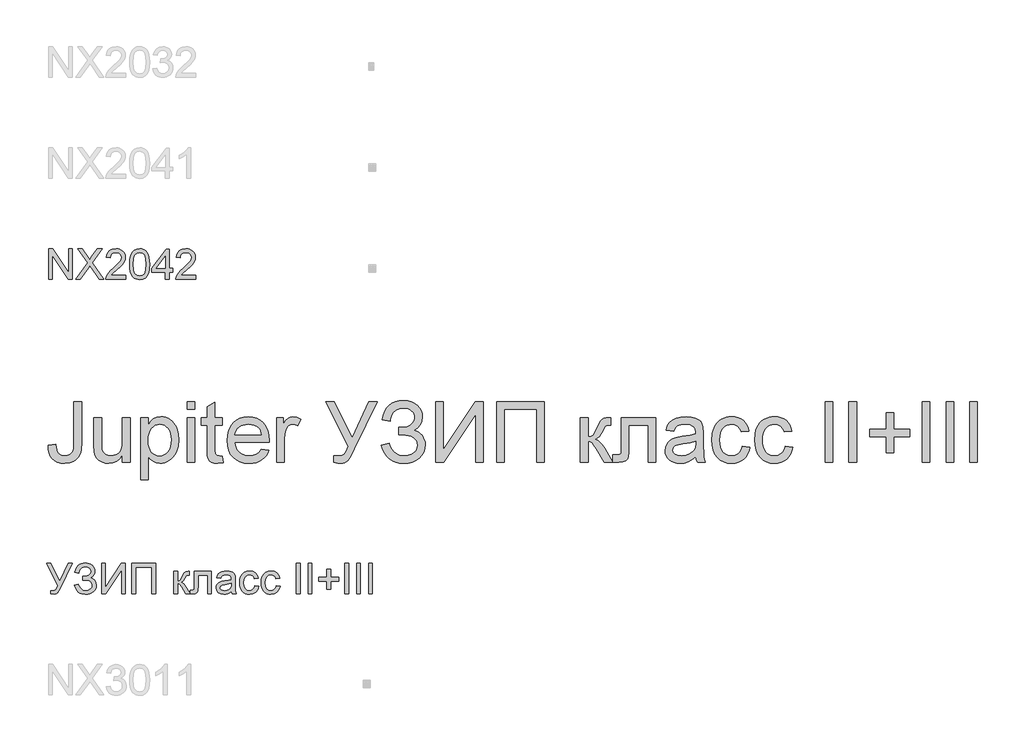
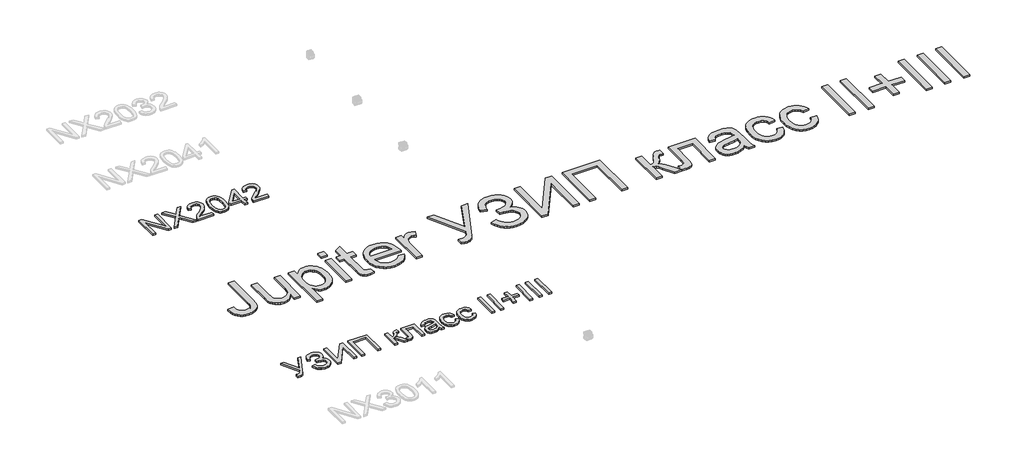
# One storey, part 7 of 124: 3 proxies.
"""IFC4 building model written with IfcOpenShell, lengths in millimetres."""

from ifc_helpers import new_model, si_unit, origin, origin_with_axes, place, context, project, spatial, polyline, outline, extrude, element, save

model = new_model("IFC4")

# Units and contexts
model_context = context("Model", 3, world=origin())
ifc_project = project(units=[si_unit("LENGTHUNIT", "METRE", prefix="MILLI")], contexts=[model_context])

# Site, building, storey
site = spatial("IfcSite", under=ifc_project)
building = spatial("IfcBuilding", under=site)
storey = spatial("IfcBuildingStorey", under=building, Name="Этаж 01", Elevation=0.0)

# Proxies
placement = place(None, origin())
element("IfcBuildingElementProxy", 1, Name="600 мм Arial", ObjectType="600 мм Arial", at=placement, inside=storey, context=model_context, shape_type="SweptSolid", body=[
    extrude(outline(polyline([(49495.1131782, -130759.9685178), (49570.4554108, -130750.2564332), (49573.1133582, -130780.2112246), (49578.2912973, -130805.0340622), (49585.989228, -130824.724946), (49596.2071504, -130839.283876), (49608.7887147, -130849.7777099), (49623.5775709, -130857.2733055), (49640.573719, -130861.7706629), (49659.7771592, -130863.2697821), (49687.6074321, -130859.8668736), (49711.3542149, -130849.6581482), (49729.6747383, -130833.5817051), (49741.2262329, -130812.5756431), (49747.3514681, -130782.1701962), (49749.3932132, -130737.8955981), (49749.3932132, -130326.4563747), (49824.7354458, -130326.4563747), (49824.7354458, -130736.5712229), (49820.1921032, -130803.6545048), (49814.5129249, -130830.7812034), (49806.5620753, -130853.6312738), (49796.1418178, -130873.115224), (49783.0544158, -130890.1435618), (49767.2998693, -130904.7162874), (49748.8781784, -130916.8334006), (49705.9647437, -130933.1673612), (49656.245492, -130938.6120147), (49619.1170017, -130935.8023159), (49586.6054304, -130927.3732197), (49558.7107781, -130913.324726), (49535.4330448, -130893.6568349), (49517.1860979, -130868.4431226), (49504.3838044, -130837.7571657), (49497.0261645, -130801.5989641), (49495.1131782, -130759.9685178)])), origin_with_axes(), (0.0, 0.0, 1.0), 20.0),
    extrude(outline(polyline([(50229.6999461, -130929.1942356), (50229.6999461, -130853.116239), (50202.4398903, -130890.5206409), (50170.6916741, -130917.2380708), (50134.4552976, -130933.2685287), (50093.7307607, -130938.6120147), (50057.0345317, -130934.8596183), (50022.8766884, -130923.6024293), (49994.218681, -130906.6798575), (49974.0219595, -130885.931313), (49960.4287198, -130860.7313963), (49951.5811578, -130830.4547081), (49947.1665738, -130760.4099762), (49947.1665738, -130486.558619), (50022.5088064, -130486.558619), (50022.5088064, -130724.9461519), (50023.6492406, -130772.6236585), (50027.0705432, -130801.7599125), (50038.0518207, -130827.3828934), (50056.8689848, -130846.8622451), (50082.2712366, -130859.1678978), (50113.0077773, -130863.2697821), (50145.5101515, -130859.0759273), (50175.9155984, -130846.4943631), (50200.9867564, -130826.6839177), (50217.4862639, -130800.8034193), (50226.6465256, -130765.3579891), (50229.6999461, -130716.852748), (50229.6999461, -130486.558619), (50305.0421787, -130486.558619), (50305.0421787, -130929.1942356), (50229.6999461, -130929.1942356)])), origin_with_axes(), (0.0, 0.0, 1.0), 20.0),
    extrude(outline(polyline([(50408.6377486, -131098.714259), (50408.6377486, -130486.558619), (50483.9799812, -130486.558619), (50483.9799812, -130560.4293236), (50508.5544985, -130523.990612), (50536.0720717, -130497.9629609), (50568.1513817, -130482.3463702), (50606.4111092, -130477.1408399), (50632.6870807, -130478.9618558), (50657.3627655, -130484.4249034), (50680.4381637, -130493.5299828), (50701.9132751, -130506.277094), (50721.3190504, -130522.335143), (50738.1864399, -130541.3730363), (50752.5154436, -130563.3907737), (50764.3060615, -130588.3883553), (50780.0881991, -130643.9017483), (50785.3489116, -130704.491913), (50779.4076174, -130768.9264444), (50771.9809996, -130798.5915288), (50761.5837348, -130826.555159), (50748.358377, -130852.0861694), (50732.4474807, -130874.4533947), (50713.8510459, -130893.6568349), (50692.5690725, -130909.6964899), (50669.6454256, -130922.347032), (50646.1239706, -130931.3831335), (50622.0047073, -130936.8047944), (50597.2876357, -130938.6120147), (50562.6515459, -130933.7743664), (50531.7310642, -130919.2614217), (50505.2619546, -130897.3540489), (50483.9799812, -130870.3331164), (50483.9799812, -131098.714259), (50408.6377486, -131098.714259)]), holes=[polyline([(50483.9799812, -130711.4080945), (50486.0171277, -130747.7180474), (50492.1285674, -130778.9512288), (50502.3143001, -130805.1076386), (50516.574326, -130826.187277), (50533.7406196, -130842.4108729), (50552.6451556, -130853.9991558), (50573.287934, -130860.9521255), (50595.6689549, -130863.2697821), (50618.3718726, -130860.8693521), (50639.3917301, -130853.668062), (50658.7285274, -130841.6659119), (50676.3822647, -130824.8629018), (50691.092946, -130803.0199083), (50701.6005754, -130775.8978082), (50707.9051531, -130743.4966015), (50710.006679, -130705.8162881), (50707.9557369, -130669.8190349), (50701.8029105, -130638.6410358), (50691.5481999, -130612.2822909), (50677.1916051, -130590.7428), (50659.9839247, -130574.0041693), (50641.1759577, -130562.0480044), (50620.767704, -130554.8743055), (50598.7591637, -130552.4830725), (50576.8196012, -130555.0260568), (50556.1768227, -130562.6550097), (50536.8308283, -130575.3699312), (50518.7816179, -130593.1708212), (50503.5559019, -130615.8185565), (50492.6803904, -130643.0740139), (50486.1550835, -130674.9371932), (50483.9799812, -130711.4080945)])]), origin_with_axes(), (0.0, 0.0, 1.0), 20.0),
    extrude(outline(polyline([(50870.1089233, -130401.7986073), (50870.1089233, -130326.4563747), (50945.4511559, -130326.4563747), (50945.4511559, -130401.7986073), (50870.1089233, -130401.7986073)])), origin_with_axes(), (0.0, 0.0, 1.0), 20.0),
    extrude(outline(polyline([(50870.1089233, -130929.1942356), (50870.1089233, -130486.558619), (50945.4511559, -130486.558619), (50945.4511559, -130929.1942356), (50870.1089233, -130929.1942356)])), origin_with_axes(), (0.0, 0.0, 1.0), 20.0),
    extrude(outline(polyline([(51218.5667492, -130866.3599908), (51227.9845282, -130931.4015276), (51171.6250066, -130938.6120147), (51135.4622064, -130935.4850177), (51108.4964562, -130926.1040268), (51089.4401689, -130911.6462644), (51077.0057574, -130893.2889529), (51070.1631523, -130861.7614659), (51067.8822839, -130807.7931772), (51067.8822839, -130561.9008516), (51011.3756095, -130561.9008516), (51011.3756095, -130486.558619), (51067.8822839, -130486.558619), (51067.8822839, -130378.9899236), (51143.2245165, -130334.6969314), (51143.2245165, -130486.558619), (51218.5667492, -130486.558619), (51218.5667492, -130561.9008516), (51143.2245165, -130561.9008516), (51143.2245165, -130805.5858852), (51147.1976421, -130844.4342239), (51160.0735119, -130858.1930105), (51170.9444249, -130862.0005892), (51185.7516752, -130863.2697821), (51218.5667492, -130866.3599908)])), origin_with_axes(), (0.0, 0.0, 1.0), 20.0),
    extrude(outline(polyline([(51603.8127745, -130797.3453285), (51677.6834791, -130806.7631076), (51666.3573122, -130836.3500171), (51651.0672168, -130862.4236535), (51631.8131929, -130884.9840168), (51608.5952404, -130904.0311071), (51581.6524828, -130919.1602542), (51551.2240433, -130929.9667878), (51517.3099219, -130936.450708), (51479.9101185, -130938.6120147), (51433.161514, -130934.882611), (51391.5080751, -130923.6943998), (51354.9498018, -130905.0473811), (51323.4866942, -130878.9415551), (51298.18561, -130846.1034885), (51280.113407, -130807.2597483), (51269.2700851, -130762.4103346), (51265.6556445, -130711.5552473), (51269.3068733, -130658.9757131), (51280.2605598, -130612.6317788), (51298.5167038, -130572.5234442), (51324.0753054, -130538.6507095), (51355.4556396, -130511.7401416), (51391.1769813, -130492.5183073), (51431.2393306, -130480.9852068), (51475.6426874, -130477.1408399), (51518.615903, -130480.9760097), (51557.4780372, -130492.4815191), (51592.2290902, -130511.6573681), (51622.8690619, -130538.5035567), (51647.880439, -130572.302715), (51665.7457084, -130612.3374732), (51676.46487, -130658.6078311), (51680.0379239, -130711.1137889), (51679.5964655, -130731.420875), (51340.9978772, -130731.420875), (51345.3618773, -130761.4860311), (51354.0392939, -130787.8171849), (51367.0301268, -130810.4143364), (51384.3343762, -130829.2774857), (51404.9955487, -130844.1491154), (51428.0571513, -130854.771708), (51453.5191839, -130861.1452635), (51481.3816465, -130863.2697821), (51521.480784, -130859.3334447), (51555.2523511, -130847.5244327), (51582.696348, -130827.1069819), (51603.8127745, -130797.3453285)]), holes=[polyline([(51340.9978772, -130656.0786424), (51604.6956913, -130656.0786424), (51594.50536, -130616.2738105), (51585.7405715, -130600.6204316), (51574.5293677, -130587.7997441), (51553.9831583, -130572.3487003), (51530.6042575, -130561.3122404), (51504.3926653, -130554.6903645), (51475.3483818, -130552.4830725), (51448.8562796, -130554.2443076), (51424.5622724, -130559.5280128), (51402.46636, -130568.334188), (51382.5685426, -130580.6628334), (51365.8712986, -130595.9437318), (51353.3771063, -130613.606666), (51345.0859658, -130633.6516363), (51340.9978772, -130656.0786424)])]), origin_with_axes(), (0.0, 0.0, 1.0), 20.0),
    extrude(outline(polyline([(51755.3801565, -130929.1942356), (51755.3801565, -130486.558619), (51821.3046101, -130486.558619), (51821.3046101, -130552.0416142), (51845.6583981, -130514.0761922), (51868.0991998, -130491.7089669), (51890.6135779, -130480.7828717), (51915.1880952, -130477.1408399), (51952.7120587, -130482.9533755), (51990.8246334, -130500.390982), (51965.661505, -130567.9341163), (51939.1740013, -130556.3458335), (51912.6864977, -130552.4830725), (51890.1905137, -130556.1986807), (51870.0857626, -130567.3455052), (51853.8437725, -130585.0774173), (51842.9360714, -130608.5482886), (51833.7758097, -130650.6339889), (51830.7223891, -130696.5456619), (51830.7223891, -130929.1942356), (51755.3801565, -130929.1942356)])), origin_with_axes(), (0.0, 0.0, 1.0), 20.0),
    extrude(outline(polyline([(52240.395779, -130326.4563747), (52323.8314155, -130326.4563747), (52504.0935931, -130683.4490628), (52666.2559766, -130326.4563747), (52748.9558491, -130326.4563747), (52520.1332481, -130796.0209534), (52485.5891287, -130868.9351648), (52457.8876145, -130911.388747), (52444.4323305, -130923.2989266), (52428.3466903, -130931.8061978), (52409.6306938, -130936.9105605), (52388.284341, -130938.6120147), (52357.492618, -130936.2575699), (52320.4469011, -130929.1942356), (52320.4469011, -130863.2697821), (52379.7494787, -130863.2697821), (52403.4778674, -130859.0759273), (52423.7481654, -130846.4943631), (52443.2091229, -130819.0135781), (52464.5094904, -130770.1220609), (52240.395779, -130326.4563747)])), origin_with_axes(), (0.0, 0.0, 1.0), 20.0),
    extrude(outline(polyline([(52791.3358549, -130759.6742122), (52866.6780876, -130740.8386541), (52872.8263154, -130761.2239151), (52882.5889838, -130781.6183732), (52912.9576425, -130822.4348806), (52933.2877213, -130840.30015), (52956.6804177, -130853.0610567), (52983.1357316, -130860.7176007), (53012.6536632, -130863.2697821), (53042.6866296, -130861.3521972), (53069.3626728, -130855.5994425), (53092.6817928, -130846.011518), (53112.6439895, -130832.5884237), (53128.6422578, -130816.4521997), (53140.0695923, -130798.724886), (53146.925993, -130779.4064827), (53149.2114598, -130758.4969898), (53146.7144608, -130736.2263336), (53139.2234637, -130716.3561073), (53126.7384685, -130698.8863111), (53109.2594752, -130683.8169448), (53087.4762625, -130671.6814375), (53062.0786093, -130663.013218), (53033.0665154, -130657.8122863), (53000.439981, -130656.0786424), (52960.8558783, -130656.0786424), (52960.8558783, -130580.7364098), (53010.0600952, -130579.2096995), (53046.1309248, -130574.6295687), (53073.9244095, -130563.7770498), (53098.2965917, -130543.4331755), (53115.2927399, -130516.6329721), (53120.9581226, -130486.4114662), (53119.0727274, -130468.0495561), (53113.4165417, -130450.9292478), (53103.9895656, -130435.0505412), (53090.791799, -130420.4134363), (53074.375065, -130408.1491703), (53055.2911865, -130399.3889803), (53033.5401635, -130394.1328662), (53009.1219961, -130392.3808282), (52967.3857837, -130397.7702995), (52932.2346591, -130413.9387132), (52905.305697, -130439.0098711), (52888.2359725, -130471.1075752), (52879.1308931, -130502.1936038), (52876.0958666, -130524.2297353), (52800.753634, -130505.3941772), (52810.0817419, -130461.2483377), (52824.160126, -130422.9886102), (52842.9887863, -130390.6149947), (52866.567723, -130364.127491), (52894.8969358, -130343.5260993), (52927.976425, -130328.8108195), (52965.8061904, -130319.9816516), (53008.3862321, -130317.0385956), (53049.4096731, -130320.0966147), (53085.9541508, -130329.270672), (53118.0196652, -130344.5607674), (53145.6062163, -130365.966901), (53167.7849021, -130391.4657218), (53183.6268205, -130419.0338788), (53193.1319715, -130448.671372), (53196.3003552, -130480.3782015), (53191.3707365, -130520.0266835), (53176.5818803, -130554.9478819), (53151.9337866, -130585.1417967), (53117.4264555, -130610.6084278), (53139.3062371, -130618.5960656), (53159.3282147, -130629.9038384), (53177.4923882, -130644.5317463), (53193.7987577, -130662.4797891), (53207.2540416, -130683.0489912), (53216.8649588, -130705.5403766), (53222.631509, -130729.9539455), (53224.5536925, -130756.2896979), (53220.8656755, -130793.5515455), (53209.8016245, -130827.6404108), (53191.3615394, -130858.556294), (53165.5454204, -130886.299195), (53133.6408544, -130909.1860536), (53096.9354283, -130925.5338098), (53055.4291422, -130935.3424635), (53009.1219961, -130938.6120147), (52969.087238, -130935.8161115), (52932.7129057, -130927.428402), (52899.9989993, -130913.4488862), (52870.9455187, -130893.8775641), (52845.552464, -130868.7144356), (52823.8198351, -130837.9595008), (52805.7476321, -130801.6127597), (52791.3358549, -130759.6742122)])), origin_with_axes(), (0.0, 0.0, 1.0), 20.0),
    extrude(outline(polyline([(53328.1492623, -130326.4563747), (53403.4914949, -130326.4563747), (53403.4914949, -130803.8200516), (53718.987094, -130326.4563747), (53799.0382161, -130326.4563747), (53799.0382161, -130929.1942356), (53723.6959835, -130929.1942356), (53723.6959835, -130453.1549338), (53408.9361484, -130929.1942356), (53328.1492623, -130929.1942356), (53328.1492623, -130326.4563747)])), origin_with_axes(), (0.0, 0.0, 1.0), 20.0),
    extrude(outline(polyline([(53930.8871232, -130326.4563747), (54401.776077, -130326.4563747), (54401.776077, -130929.1942356), (54326.4338444, -130929.1942356), (54326.4338444, -130401.7986073), (54006.2293558, -130401.7986073), (54006.2293558, -130929.1942356), (53930.8871232, -130929.1942356), (53930.8871232, -130326.4563747)])), origin_with_axes(), (0.0, 0.0, 1.0), 20.0),
    extrude(outline(polyline([(54759.6516819, -130486.558619), (54834.9939145, -130486.558619), (54834.9939145, -130674.9142005), (54865.6384847, -130671.5296862), (54885.4673243, -130661.3761431), (54903.0152955, -130634.8886395), (54926.8172605, -130582.5022434), (54946.0023066, -130539.662385), (54961.1774389, -130514.4440742), (54975.3408957, -130500.7036817), (54991.4909153, -130492.2975781), (55013.8397465, -130487.9933588), (55046.5996382, -130486.558619), (55061.0206124, -130486.558619), (55061.0206124, -130562.34231), (55040.7135262, -130561.9008516), (55017.1690786, -130563.8874144), (55003.9253267, -130569.8471027), (54993.1831725, -130586.4385807), (54978.0264343, -130619.4375957), (54962.115538, -130652.4917929), (54947.6393815, -130673.0747906), (54930.1098044, -130686.8151831), (54905.0386464, -130699.341565), (54928.9141879, -130709.9457635), (54952.5690002, -130728.66176), (54976.0030833, -130755.4895545), (54999.2164372, -130790.429147), (55079.8561705, -130929.1942356), (54994.2132421, -130929.1942356), (54915.1921895, -130793.372203), (54893.8550338, -130757.227797), (54875.460934, -130735.9090353), (54856.8828933, -130725.4795808), (54834.9939145, -130722.0030959), (54834.9939145, -130929.1942356), (54759.6516819, -130929.1942356), (54759.6516819, -130486.558619)])), origin_with_axes(), (0.0, 0.0, 1.0), 20.0),
    extrude(outline(polyline([(55164.6161822, -130486.558619), (55503.656229, -130486.558619), (55503.656229, -130928.7527772), (55428.3139964, -130928.7527772), (55428.3139964, -130561.9008516), (55239.9584148, -130561.9008516), (55239.9584148, -130773.0651169), (55238.689222, -130834.3542572), (55234.8816433, -130870.4802692), (55225.3718937, -130892.5347948), (55206.9961881, -130911.6094762), (55179.1107328, -130924.7980458), (55141.0717345, -130929.1942356), (55079.8561705, -130925.3682629), (55079.8561705, -130853.852003), (55113.5541613, -130853.852003), (55133.9900061, -130852.6931747), (55147.620034, -130849.2166899), (55156.1365022, -130843.2202133), (55161.2316679, -130834.50141), (55164.6161822, -130768.7976857), (55164.6161822, -130486.558619)])), origin_with_axes(), (0.0, 0.0, 1.0), 20.0),
    extrude(outline(polyline([(55899.2029502, -130872.6875611), (55863.205697, -130903.5528605), (55826.141586, -130923.7495821), (55787.1644886, -130934.8964065), (55745.4282762, -130938.6120147), (55711.8820368, -130936.3771316), (55682.4652727, -130929.6724822), (55657.1779841, -130918.4980666), (55636.0201708, -130902.8538848), (55619.3137297, -130883.7332181), (55607.3805575, -130862.1293479), (55600.2206542, -130838.0422743), (55597.8340197, -130811.4719971), (55601.4392633, -130780.2388158), (55612.254994, -130751.8751139), (55628.9384424, -130727.5949022), (55650.1468395, -130708.6121913), (55675.0708446, -130694.2647935), (55702.9011176, -130683.8905212), (55768.0898071, -130672.5597558), (55845.1242969, -130660.6403791), (55898.7614918, -130646.6608633), (55899.2029502, -130629.8854443), (55894.0158141, -130596.26103), (55887.5318939, -130583.8082244), (55878.4544057, -130574.2616867), (55862.7642386, -130564.733543), (55843.6527689, -130557.9277261), (55795.165922, -130552.4830725), (55750.2843185, -130556.1067102), (55718.9407726, -130566.9776232), (55697.5668286, -130587.0823742), (55682.5940314, -130618.4075261), (55607.2517988, -130608.989747), (55620.3300037, -130567.7869635), (55639.8461436, -130535.413348), (55667.6212342, -130510.6548897), (55705.4762915, -130492.2975781), (55751.7742406, -130480.9300245), (55804.8780066, -130477.1408399), (55855.8112689, -130480.4885661), (55896.1863178, -130490.5317446), (55926.6285529, -130505.6333005), (55947.7633736, -130524.1561589), (55961.7796776, -130547.0568131), (55970.8663629, -130575.2917562), (55974.5451828, -130641.2162098), (55974.5451828, -130734.9525422), (55978.3711556, -130865.844956), (55984.0365383, -130898.2001775), (55993.380741, -130929.1942356), (55918.0385083, -130929.1942356), (55905.9719789, -130903.0010375), (55899.2029502, -130872.6875611)]), holes=[polyline([(55899.2029502, -130722.0030959), (55848.5823877, -130734.547872), (55777.654739, -130745.1060852), (55712.8339314, -130757.3197675), (55695.966542, -130765.6706888), (55683.4769482, -130777.1853952), (55675.7514263, -130790.98097), (55673.1762524, -130806.1744964), (55678.7864528, -130828.5785099), (55695.6170541, -130846.9358215), (55723.3001742, -130859.1862919), (55761.4679312, -130863.2697821), (55801.9349507, -130858.7632276), (55837.6930806, -130845.2435643), (55866.6821818, -130825.3227543), (55886.8421152, -130801.6127597), (55895.7816476, -130777.1853952), (55898.7614918, -130743.3402516), (55899.2029502, -130722.0030959)])]), origin_with_axes(), (0.0, 0.0, 1.0), 20.0),
    extrude(outline(polyline([(56360.6741249, -130769.0919913), (56436.0163576, -130778.5097704), (56427.8217861, -130814.0609667), (56415.0102956, -130845.5194758), (56397.5818861, -130872.8852977), (56375.5365575, -130896.1584324), (56349.803212, -130914.7318747), (56321.3107515, -130927.9986191), (56290.059176, -130935.9586658), (56256.0484855, -130938.6120147), (56213.7926398, -130934.9102021), (56175.9053929, -130923.8047644), (56142.3867446, -130905.2957015), (56113.236695, -130879.3830135), (56089.6416635, -130846.5541439), (56072.7880696, -130807.2965365), (56062.6759133, -130761.6101912), (56059.3051945, -130709.4951081), (56065.0625477, -130642.4486145), (56072.2592392, -130612.2776923), (56082.3346074, -130584.3416533), (56095.35763, -130559.2015175), (56111.397285, -130537.4183048), (56130.4535724, -130518.9920154), (56152.5264921, -130503.9226492), (56176.6181642, -130492.2056076), (56201.7307089, -130483.8362922), (56227.8641262, -130478.814703), (56255.0184159, -130477.1408399), (56288.4450937, -130479.4401024), (56318.6803952, -130486.3378898), (56345.7243204, -130497.8342022), (56369.5768692, -130513.9290395), (56389.8333716, -130534.2545197), (56406.0891572, -130558.4427609), (56418.3442262, -130586.493763), (56426.5985785, -130618.4075261), (56351.2563459, -130627.8253052), (56337.5895297, -130594.9550489), (56316.3075563, -130571.3922071), (56288.587648, -130557.2103562), (56255.6070271, -130552.4830725), (56230.0070388, -130554.8099262), (56206.9178451, -130561.790487), (56186.339446, -130573.4247551), (56168.2718415, -130589.7127305), (56153.5611602, -130611.0314921), (56143.0535307, -130637.758119), (56136.748953, -130669.8926113), (56134.6474271, -130707.4349689), (56136.7029678, -130745.5429451), (56142.8695897, -130778.0499179), (56153.1472929, -130804.9558873), (56167.5360775, -130826.2608534), (56185.244997, -130842.4522597), (56205.4831053, -130854.0175499), (56228.2504023, -130860.956724), (56253.5468879, -130863.2697821), (56292.5607735, -130857.4940347), (56309.4327615, -130850.2743506), (56324.548113, -130840.1667928), (56337.4837637, -130827.0609967), (56347.8166492, -130810.8465978), (56355.5467696, -130791.523596), (56360.6741249, -130769.0919913)])), origin_with_axes(), (0.0, 0.0, 1.0), 20.0),
    extrude(outline(polyline([(56784.4741834, -130769.0919913), (56859.816416, -130778.5097704), (56851.6218446, -130814.0609667), (56838.8103541, -130845.5194758), (56821.3819446, -130872.8852977), (56799.336616, -130896.1584324), (56773.6032704, -130914.7318747), (56745.1108099, -130927.9986191), (56713.8592344, -130935.9586658), (56679.848544, -130938.6120147), (56637.5926983, -130934.9102021), (56599.7054513, -130923.8047644), (56566.186803, -130905.2957015), (56537.0367534, -130879.3830135), (56513.441722, -130846.5541439), (56496.5881281, -130807.2965365), (56486.4759717, -130761.6101912), (56483.1052529, -130709.4951081), (56488.8626062, -130642.4486145), (56496.0592977, -130612.2776923), (56506.1346658, -130584.3416533), (56519.1576885, -130559.2015175), (56535.1973435, -130537.4183048), (56554.2536308, -130518.9920154), (56576.3265505, -130503.9226492), (56600.4182227, -130492.2056076), (56625.5307674, -130483.8362922), (56651.6641846, -130478.814703), (56678.8184744, -130477.1408399), (56712.2451522, -130479.4401024), (56742.4804536, -130486.3378898), (56769.5243788, -130497.8342022), (56793.3769277, -130513.9290395), (56813.63343, -130534.2545197), (56829.8892157, -130558.4427609), (56842.1442847, -130586.493763), (56850.3986369, -130618.4075261), (56775.0564043, -130627.8253052), (56761.3895882, -130594.9550489), (56740.1076148, -130571.3922071), (56712.3877064, -130557.2103562), (56679.4070856, -130552.4830725), (56653.8070972, -130554.8099262), (56630.7179035, -130561.790487), (56610.1395044, -130573.4247551), (56592.0718999, -130589.7127305), (56577.3612186, -130611.0314921), (56566.8535891, -130637.758119), (56560.5490114, -130669.8926113), (56558.4474855, -130707.4349689), (56560.5030262, -130745.5429451), (56566.6696481, -130778.0499179), (56576.9473514, -130804.9558873), (56591.3361359, -130826.2608534), (56609.0450555, -130842.4522597), (56629.2831637, -130854.0175499), (56652.0504607, -130860.956724), (56677.3469464, -130863.2697821), (56716.360832, -130857.4940347), (56733.23282, -130850.2743506), (56748.3481715, -130840.1667928), (56761.2838221, -130827.0609967), (56771.6167077, -130810.8465978), (56779.3468281, -130791.523596), (56784.4741834, -130769.0919913)])), origin_with_axes(), (0.0, 0.0, 1.0), 20.0),
    extrude(outline(polyline([(57180.0209046, -130929.1942356), (57180.0209046, -130326.4563747), (57255.3631372, -130326.4563747), (57255.3631372, -130929.1942356), (57180.0209046, -130929.1942356)])), origin_with_axes(), (0.0, 0.0, 1.0), 20.0),
    extrude(outline(polyline([(57415.4653815, -130929.1942356), (57415.4653815, -130326.4563747), (57490.8076141, -130326.4563747), (57490.8076141, -130929.1942356), (57415.4653815, -130929.1942356)])), origin_with_axes(), (0.0, 0.0, 1.0), 20.0),
    extrude(outline(polyline([(57782.7587655, -130835.0164448), (57782.7587655, -130674.9142005), (57622.6565212, -130674.9142005), (57622.6565212, -130599.5719679), (57782.7587655, -130599.5719679), (57782.7587655, -130439.4697236), (57858.1009981, -130439.4697236), (57858.1009981, -130599.5719679), (58018.2032424, -130599.5719679), (58018.2032424, -130674.9142005), (57858.1009981, -130674.9142005), (57858.1009981, -130835.0164448), (57782.7587655, -130835.0164448)])), origin_with_axes(), (0.0, 0.0, 1.0), 20.0),
    extrude(outline(polyline([(58140.6343704, -130929.1942356), (58140.6343704, -130326.4563747), (58215.976603, -130326.4563747), (58215.976603, -130929.1942356), (58140.6343704, -130929.1942356)])), origin_with_axes(), (0.0, 0.0, 1.0), 20.0),
    extrude(outline(polyline([(58376.0788473, -130929.1942356), (58376.0788473, -130326.4563747), (58451.4210799, -130326.4563747), (58451.4210799, -130929.1942356), (58376.0788473, -130929.1942356)])), origin_with_axes(), (0.0, 0.0, 1.0), 20.0),
    extrude(outline(polyline([(58611.5233242, -130929.1942356), (58611.5233242, -130326.4563747), (58686.8655568, -130326.4563747), (58686.8655568, -130929.1942356), (58611.5233242, -130929.1942356)])), origin_with_axes(), (0.0, 0.0, 1.0), 20.0),
])
element("IfcBuildingElementProxy", 2, Name="300", ObjectType="300", at=placement, inside=storey, context=model_context, shape_type="SweptSolid", body=[
    extrude(outline(polyline([(49499.8220677, -129116.6913893), (49499.8220677, -128815.3224589), (49540.1419344, -128815.3224589), (49697.5954283, -129054.0778737), (49697.5954283, -128815.3224589), (49735.2665446, -128815.3224589), (49735.2665446, -129116.6913893), (49694.9466779, -129116.6913893), (49537.493184, -128877.862398), (49537.493184, -129116.6913893), (49499.8220677, -129116.6913893)])), origin_with_axes(), (0.0, 0.0, 1.0), 20.0),
    extrude(outline(polyline([(49768.2287714, -129116.6913893), (49884.4059055, -128952.4688667), (49787.0643295, -128815.3224589), (49832.2402385, -128815.3224589), (49887.0546558, -128892.5041014), (49905.522332, -128922.5968486), (49927.1537933, -128891.9890666), (49981.3795994, -128815.3224589), (50027.217696, -128815.3224589), (49929.8761201, -128952.910325), (50046.0532541, -129116.6913893), (50000.8773451, -129116.6913893), (49923.4749733, -129007.5040131), (49907.361742, -128984.8424822), (49889.6298298, -129009.7113051), (49814.066868, -129116.6913893), (49768.2287714, -129116.6913893)])), origin_with_axes(), (0.0, 0.0, 1.0), 20.0),
    extrude(outline(polyline([(50262.6621729, -129079.020273), (50262.6621729, -129116.6913893), (50064.8888123, -129116.6913893), (50068.9355142, -129090.7189204), (50078.2245346, -129070.4210314), (50091.8177743, -129050.7301476), (50111.481067, -129030.1195588), (50138.9802461, -129007.0625547), (50179.6312066, -128970.9549369), (50204.0217829, -128944.3018864), (50216.217071, -128922.670425), (50220.282167, -128901.6275749), (50216.4469972, -128882.7644256), (50204.9414878, -128867.0834556), (50187.2555609, -128856.5160453), (50164.8791386, -128852.9935752), (50141.3806761, -128856.4332718), (50123.1245321, -128866.7523618), (50111.3431112, -128883.1415047), (50107.2688181, -128904.7913601), (50069.5977018, -128900.0824705), (50078.7303724, -128863.6437589), (50087.276731, -128849.1078216), (50098.4764384, -128837.0274966), (50112.0719774, -128827.5315426), (50127.8058305, -128820.7487183), (50165.688479, -128815.3224589), (50185.8783027, -128816.830775), (50203.8470389, -128821.3557236), (50219.5946876, -128828.8973045), (50233.1212487, -128839.4555177), (50243.9852638, -128852.2486141), (50251.7452747, -128866.4948444), (50256.4012812, -128882.1942085), (50257.9532834, -128899.3467065), (50256.2794203, -128917.3637273), (50251.257831, -128935.0680483), (50242.3458897, -128953.0758719), (50229.0009703, -128972.0034006), (50207.728194, -128994.6005522), (50175.0326816, -129023.6172445), (50131.6961826, -129059.853621), (50114.7000344, -129079.020273), (50262.6621729, -129079.020273)])), origin_with_axes(), (0.0, 0.0, 1.0), 20.0),
    extrude(outline(polyline([(50300.3332892, -128968.4349452), (50303.1016012, -128920.1964186), (50311.4065373, -128881.725159), (50325.1653239, -128852.4325551), (50344.2951876, -128831.7299958), (50368.9340842, -128819.4243431), (50399.2199695, -128815.3224589), (50422.4333234, -128817.75048), (50443.2186561, -128825.0345435), (50460.6010804, -128836.8895408), (50473.6057089, -128853.0303634), (50483.4281582, -128873.3190554), (50491.2640447, -128897.6176612), (50496.3959985, -128928.4737635), (50498.1066498, -128968.4349452), (50495.3659289, -129016.3975604), (50487.1437663, -129054.7768495), (50473.4677532, -129084.0970445), (50454.3654806, -129104.8823773), (50429.6714017, -129117.2708034), (50399.2199695, -129121.4002788), (50378.471425, -129119.6068541), (50360.0773252, -129114.2265799), (50344.0376702, -129105.2594563), (50330.35246, -129092.7054832), (50317.2190728, -129070.0117626), (50307.8380819, -129041.7354328), (50302.2094874, -129007.8764937), (50300.3332892, -128968.4349452)]), holes=[polyline([(50338.0044055, -128968.3613688), (50342.4189894, -129027.6179612), (50347.9372194, -129047.8859599), (50355.6627413, -129061.9137602), (50375.3812162, -129078.275312), (50399.2199695, -129083.7291625), (50423.0587228, -129078.2569179), (50442.7771977, -129061.8401838), (50450.5027196, -129047.7893909), (50456.0209496, -129027.5259907), (50460.4355335, -128968.3613688), (50456.1681024, -128910.4383487), (50450.8338134, -128890.2370286), (50443.3658089, -128875.8758353), (50423.6841222, -128858.7141402), (50398.7785111, -128852.9935752), (50375.1972752, -128858.0335585), (50356.2513525, -128873.1535085), (50348.2683132, -128888.7884933), (50342.5661422, -128909.8681316), (50338.0044055, -128968.3613688)])]), origin_with_axes(), (0.0, 0.0, 1.0), 20.0),
    extrude(outline(polyline([(50653.5000046, -129116.6913893), (50653.5000046, -129046.0580462), (50516.942208, -129046.0580462), (50516.942208, -129008.3869299), (50662.9177836, -128820.0313484), (50691.1711209, -128820.0313484), (50691.1711209, -129008.3869299), (50728.8422372, -129008.3869299), (50728.8422372, -129046.0580462), (50691.1711209, -129046.0580462), (50691.1711209, -129116.6913893), (50653.5000046, -129116.6913893)]), holes=[polyline([(50653.5000046, -129008.3869299), (50653.5000046, -128891.9890666), (50563.2953394, -129008.3869299), (50653.5000046, -129008.3869299)])]), origin_with_axes(), (0.0, 0.0, 1.0), 20.0),
    extrude(outline(polyline([(50954.868935, -129079.020273), (50954.868935, -129116.6913893), (50757.0955744, -129116.6913893), (50761.1422764, -129090.7189204), (50770.4312967, -129070.4210314), (50784.0245365, -129050.7301476), (50803.6878291, -129030.1195588), (50831.1870082, -129007.0625547), (50871.8379687, -128970.9549369), (50896.228545, -128944.3018864), (50908.4238331, -128922.670425), (50912.4889292, -128901.6275749), (50908.6537594, -128882.7644256), (50897.14825, -128867.0834556), (50879.4623231, -128856.5160453), (50857.0859007, -128852.9935752), (50833.5874383, -128856.4332718), (50815.3312942, -128866.7523618), (50803.5498734, -128883.1415047), (50799.4755803, -128904.7913601), (50761.8044639, -128900.0824705), (50770.9371345, -128863.6437589), (50779.4834931, -128849.1078216), (50790.6832006, -128837.0274966), (50804.2787396, -128827.5315426), (50820.0125926, -128820.7487183), (50857.8952411, -128815.3224589), (50878.0850648, -128816.830775), (50896.053801, -128821.3557236), (50911.8014497, -128828.8973045), (50925.3280108, -128839.4555177), (50936.192026, -128852.2486141), (50943.9520368, -128866.4948444), (50948.6080433, -128882.1942085), (50950.1600455, -128899.3467065), (50948.4861824, -128917.3637273), (50943.4645932, -128935.0680483), (50934.5526518, -128953.0758719), (50921.2077325, -128972.0034006), (50899.9349561, -128994.6005522), (50867.2394438, -129023.6172445), (50823.9029447, -129059.853621), (50806.9067966, -129079.020273), (50954.868935, -129079.020273)])), origin_with_axes(), (0.0, 0.0, 1.0), 20.0),
])
element("IfcBuildingElementProxy", 3, Name="300", ObjectType="300", at=placement, inside=storey, context=model_context, shape_type="SweptSolid", body=[
    extrude(outline(polyline([(49478.6320648, -131927.8253052), (49520.349883, -131927.8253052), (49610.4809718, -132106.3216492), (49691.5621636, -131927.8253052), (49732.9120998, -131927.8253052), (49618.5007993, -132162.6075945), (49601.2287397, -132199.0647002), (49587.3779825, -132220.2914913), (49572.6075204, -132230.5002167), (49552.5763458, -132233.9031251), (49518.6576258, -132229.1942356), (49518.6576258, -132196.2320088), (49548.3089147, -132196.2320088), (49560.173109, -132194.1350815), (49570.308258, -132187.8442993), (49580.0387367, -132174.1039068), (49590.6889205, -132149.6581482), (49478.6320648, -131927.8253052)])), origin_with_axes(), (0.0, 0.0, 1.0), 20.0),
    extrude(outline(polyline([(49754.1021028, -132144.4342239), (49791.7732191, -132135.0164448), (49799.7286672, -132155.4063044), (49814.9129966, -132175.8145581), (49836.7743841, -132191.1276462), (49864.7610069, -132196.2320088), (49893.1155117, -132192.396839), (49914.7561701, -132180.8913296), (49928.4689714, -132163.9595608), (49933.0399052, -132143.8456127), (49928.0459071, -132122.7751715), (49913.0639129, -132106.5055902), (49889.4734799, -132096.1037268), (49858.6541658, -132092.636439), (49838.8621144, -132092.636439), (49838.8621144, -132054.9653227), (49881.4996377, -132051.9119021), (49895.3963801, -132046.4856427), (49907.5824711, -132036.3137055), (49916.0805452, -132022.9136039), (49918.9132366, -132007.8028509), (49915.1424461, -131990.0617417), (49903.8300748, -131974.8038359), (49886.0797685, -131964.2916079), (49862.9951733, -131960.7875319), (49842.1270672, -131963.4822675), (49824.5515048, -131971.5664744), (49811.0870238, -131984.1020534), (49802.5521615, -132000.1509054), (49796.4821086, -132026.7119855), (49758.8109923, -132017.2942064), (49770.5142383, -131976.0914229), (49779.9285685, -131959.9046151), (49791.7180368, -131946.6608633), (49805.8826432, -131936.3601674), (49822.4223878, -131929.0025275), (49841.3372705, -131924.5879436), (49862.6272913, -131923.1164156), (49883.1390118, -131924.6454252), (49901.4112507, -131929.2324538), (49917.4440079, -131936.8775015), (49931.2372834, -131947.5805683), (49942.3266263, -131960.3299787), (49950.2475855, -131974.1140572), (49955.0001611, -131988.9328038), (49956.5843529, -132004.7862185), (49954.1195435, -132024.6104596), (49946.7251154, -132042.0710588), (49934.4010686, -132057.1680161), (49917.147403, -132069.9013317), (49938.0982826, -132079.549037), (49955.3335541, -132095.8370124), (49966.8666547, -132117.3673061), (49970.7110215, -132142.7419667), (49968.867013, -132161.3728905), (49963.3349875, -132178.4173232), (49954.114945, -132193.8752648), (49941.2068855, -132207.7467153), (49925.2546025, -132219.1901446), (49906.9018895, -132227.3640227), (49886.1487464, -132232.2683495), (49862.9951733, -132233.9031251), (49824.7906281, -132228.3113188), (49808.4336749, -132221.3215609), (49793.9069346, -132211.5358998), (49781.2104073, -132198.9543356), (49770.3440928, -132183.5768682), (49754.1021028, -132144.4342239)])), origin_with_axes(), (0.0, 0.0, 1.0), 20.0),
    extrude(outline(polyline([(50022.5088064, -131927.8253052), (50060.1799227, -131927.8253052), (50060.1799227, -132166.5071436), (50217.9277223, -131927.8253052), (50257.9532834, -131927.8253052), (50257.9532834, -132229.1942356), (50220.282167, -132229.1942356), (50220.282167, -131991.1745847), (50062.9022495, -132229.1942356), (50022.5088064, -132229.1942356), (50022.5088064, -131927.8253052)])), origin_with_axes(), (0.0, 0.0, 1.0), 20.0),
    extrude(outline(polyline([(50323.8777369, -131927.8253052), (50559.3222138, -131927.8253052), (50559.3222138, -132229.1942356), (50521.6510975, -132229.1942356), (50521.6510975, -131965.4964215), (50361.5488532, -131965.4964215), (50361.5488532, -132229.1942356), (50323.8777369, -132229.1942356), (50323.8777369, -131927.8253052)])), origin_with_axes(), (0.0, 0.0, 1.0), 20.0),
    extrude(outline(polyline([(50940.7422664, -132007.8764273), (51110.2622898, -132007.8764273), (51110.2622898, -132228.9735064), (51072.5911735, -132228.9735064), (51072.5911735, -132045.5475436), (50978.4133827, -132045.5475436), (50978.4133827, -132151.1296762), (50975.8749969, -132199.8372524), (50971.1201222, -132210.8645152), (50961.9322693, -132220.4018559), (50947.9895417, -132226.9961407), (50928.9700426, -132229.1942356), (50898.3622606, -132227.2812492), (50898.3622606, -132191.5231193), (50915.2112559, -132191.5231193), (50932.2441923, -132189.2054627), (50939.0500092, -132181.8478228), (50940.7422664, -132148.9959607), (50940.7422664, -132007.8764273)])), origin_with_axes(), (0.0, 0.0, 1.0), 20.0),
    extrude(outline(polyline([(50738.2600163, -132007.8764273), (50775.9311326, -132007.8764273), (50775.9311326, -132102.0542181), (50791.2534177, -132100.3619609), (50801.1678374, -132095.2851894), (50809.941823, -132082.0414375), (50821.8428056, -132055.8482395), (50839.0228947, -132021.8191549), (50854.1796329, -132010.7459069), (50881.7339944, -132007.8764273), (50888.9444815, -132007.8764273), (50888.9444815, -132045.7682728), (50878.7909384, -132045.5475436), (50860.3968387, -132049.5206692), (50847.4473924, -132074.3159156), (50832.253866, -132101.1345131), (50810.9534985, -132114.2679003), (50822.8912692, -132119.5699996), (50834.7186754, -132128.9279978), (50858.0423939, -132159.8116913), (50898.3622606, -132229.1942356), (50855.5407963, -132229.1942356), (50816.03027, -132161.2832193), (50796.1646423, -132132.5516355), (50786.8756219, -132127.3369082), (50775.9311326, -132125.5986658), (50775.9311326, -132229.1942356), (50738.2600163, -132229.1942356), (50738.2600163, -132007.8764273)])), origin_with_axes(), (0.0, 0.0, 1.0), 20.0),
    extrude(outline(polyline([(51308.0356504, -132200.9408984), (51290.0370238, -132216.3735481), (51271.5049683, -132226.4719088), (51252.0164196, -132232.0453211), (51231.1483134, -132233.9031251), (51199.6668117, -132229.4333589), (51176.4442607, -132216.0240602), (51162.124454, -132195.6617917), (51157.3511852, -132170.3331164), (51159.1538069, -132154.7165257), (51164.5616723, -132140.5346748), (51172.9033965, -132128.3945689), (51183.507595, -132118.9032135), (51209.8847341, -132106.5423784), (51242.4790788, -132100.8769957), (51280.9963237, -132094.9173074), (51307.8149212, -132087.9275495), (51308.0356504, -132079.53984), (51305.4420823, -132062.7276328), (51297.6613781, -132051.7279611), (51280.2605598, -132043.5609808), (51256.0171363, -132040.8386541), (51233.5763346, -132042.6504729), (51217.9045616, -132048.0859294), (51207.2175896, -132058.1383049), (51199.731191, -132073.8008808), (51162.0600747, -132069.0919913), (51168.5991772, -132048.4905996), (51178.3572471, -132032.3037918), (51192.2447924, -132019.9245626), (51211.1723211, -132010.7459069), (51234.3212956, -132005.06213), (51260.8731786, -132003.1675378), (51286.3398097, -132004.8414008), (51306.5273342, -132009.8629901), (51321.7484518, -132017.413768), (51332.3158621, -132026.6751973), (51339.3240141, -132038.1255244), (51343.8673567, -132052.2429959), (51345.7067667, -132085.2052227), (51345.7067667, -132132.0733889), (51347.6197531, -132197.5195958), (51355.1245458, -132229.1942356), (51317.4534295, -132229.1942356), (51308.0356504, -132200.9408984)]), holes=[polyline([(51308.0356504, -132125.5986658), (51247.2615448, -132137.1501604), (51214.851141, -132143.2570015), (51200.1726494, -132153.1898154), (51195.0223015, -132167.684366), (51197.8274017, -132178.8863728), (51206.2427023, -132188.0650285), (51220.0842624, -132194.1902638), (51239.1681409, -132196.2320088), (51259.4016506, -132193.9787316), (51277.2807156, -132187.2189), (51291.7752662, -132177.2584949), (51301.8552329, -132165.4034976), (51306.3249991, -132153.1898154), (51307.8149212, -132136.2672436), (51308.0356504, -132125.5986658)])]), origin_with_axes(), (0.0, 0.0, 1.0), 20.0),
    extrude(outline(polyline([(51538.7712378, -132149.1431135), (51576.4423541, -132153.852003), (51565.9393231, -132187.3568557), (51546.2024541, -132212.676334), (51519.089551, -132228.5964274), (51486.458418, -132233.9031251), (51465.3304952, -132232.0522189), (51446.3868717, -132226.4995), (51429.6275476, -132217.2449686), (51415.0525228, -132204.2886245), (51403.2550071, -132187.8741898), (51394.8282101, -132168.2453861), (51389.7721319, -132145.4022134), (51388.0867725, -132119.3446718), (51390.9654491, -132085.821425), (51399.601479, -132056.7679445), (51414.1328178, -132033.3062702), (51434.6974213, -132016.5584424), (51459.2995298, -132006.5152639), (51485.9433833, -132003.1675378), (51517.7743729, -132007.7660627), (51543.2226099, -132021.5616375), (51561.4787539, -132043.8184982), (51571.7334645, -132073.8008808), (51534.0623482, -132078.5097704), (51527.2289402, -132062.0746422), (51516.5879535, -132050.2932214), (51502.7279993, -132043.2022959), (51486.2376889, -132040.8386541), (51461.8930978, -132045.4923613), (51442.570096, -132059.453483), (51429.9609406, -132083.4761773), (51425.7578888, -132118.3146023), (51429.8689701, -132153.6220767), (51442.202214, -132177.7275445), (51461.1757279, -132191.6058927), (51485.2076193, -132196.2320088), (51504.7145621, -132193.3441352), (51520.7082318, -132184.6805142), (51532.3424999, -132170.0204167), (51538.7712378, -132149.1431135)])), origin_with_axes(), (0.0, 0.0, 1.0), 20.0),
    extrude(outline(polyline([(51750.671267, -132149.1431135), (51788.3423833, -132153.852003), (51777.8393523, -132187.3568557), (51758.1024833, -132212.676334), (51730.9895802, -132228.5964274), (51698.3584473, -132233.9031251), (51677.2305244, -132232.0522189), (51658.2869009, -132226.4995), (51641.5275768, -132217.2449686), (51626.952552, -132204.2886245), (51615.1550363, -132187.8741898), (51606.7282393, -132168.2453861), (51601.6721611, -132145.4022134), (51599.9868018, -132119.3446718), (51602.8654784, -132085.821425), (51611.5015082, -132056.7679445), (51626.032847, -132033.3062702), (51646.5974505, -132016.5584424), (51671.199559, -132006.5152639), (51697.8434125, -132003.1675378), (51729.6744021, -132007.7660627), (51755.1226391, -132021.5616375), (51773.3787831, -132043.8184982), (51783.6334938, -132073.8008808), (51745.9623774, -132078.5097704), (51739.1289694, -132062.0746422), (51728.4879827, -132050.2932214), (51714.6280285, -132043.2022959), (51698.1377181, -132040.8386541), (51673.793127, -132045.4923613), (51654.4701252, -132059.453483), (51641.8609699, -132083.4761773), (51637.6579181, -132118.3146023), (51641.7689994, -132153.6220767), (51654.1022432, -132177.7275445), (51673.0757572, -132191.6058927), (51697.1076485, -132196.2320088), (51716.6145913, -132193.3441352), (51732.608261, -132184.6805142), (51744.2425291, -132170.0204167), (51750.671267, -132149.1431135)])), origin_with_axes(), (0.0, 0.0, 1.0), 20.0),
    extrude(outline(polyline([(51948.4446276, -132229.1942356), (51948.4446276, -131927.8253052), (51986.1157439, -131927.8253052), (51986.1157439, -132229.1942356), (51948.4446276, -132229.1942356)])), origin_with_axes(), (0.0, 0.0, 1.0), 20.0),
    extrude(outline(polyline([(52066.166866, -132229.1942356), (52066.166866, -131927.8253052), (52103.8379824, -131927.8253052), (52103.8379824, -132229.1942356), (52066.166866, -132229.1942356)])), origin_with_axes(), (0.0, 0.0, 1.0), 20.0),
    extrude(outline(polyline([(52249.813558, -132182.1053402), (52249.813558, -132102.0542181), (52169.7624359, -132102.0542181), (52169.7624359, -132064.3831018), (52249.813558, -132064.3831018), (52249.813558, -131984.3319796), (52287.4846743, -131984.3319796), (52287.4846743, -132064.3831018), (52367.5357965, -132064.3831018), (52367.5357965, -132102.0542181), (52287.4846743, -132102.0542181), (52287.4846743, -132182.1053402), (52249.813558, -132182.1053402)])), origin_with_axes(), (0.0, 0.0, 1.0), 20.0),
    extrude(outline(polyline([(52428.7513605, -132229.1942356), (52428.7513605, -131927.8253052), (52466.4224768, -131927.8253052), (52466.4224768, -132229.1942356), (52428.7513605, -132229.1942356)])), origin_with_axes(), (0.0, 0.0, 1.0), 20.0),
    extrude(outline(polyline([(52546.4735989, -132229.1942356), (52546.4735989, -131927.8253052), (52584.1447153, -131927.8253052), (52584.1447153, -132229.1942356), (52546.4735989, -132229.1942356)])), origin_with_axes(), (0.0, 0.0, 1.0), 20.0),
    extrude(outline(polyline([(52664.1958374, -132229.1942356), (52664.1958374, -131927.8253052), (52701.8669537, -131927.8253052), (52701.8669537, -132229.1942356), (52664.1958374, -132229.1942356)])), origin_with_axes(), (0.0, 0.0, 1.0), 20.0),
])

save(model, "model.ifc")
